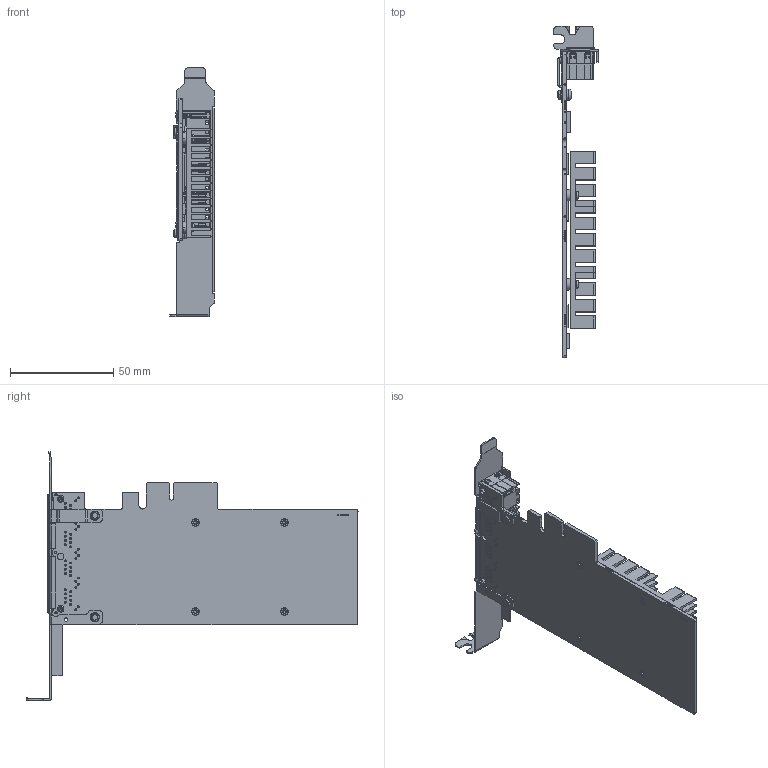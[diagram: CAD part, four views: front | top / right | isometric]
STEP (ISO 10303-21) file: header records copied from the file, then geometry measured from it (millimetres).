
FILE_DESCRIPTION((''),'2;1');
FILE_NAME('MV-20226_LONG','2021-08-18T19:46:18',('gengdawei'),(''),'CREO PARAMETRIC BY PTC INC, 2017260','CREO PARAMETRIC BY PTC INC, 2017260','');
FILE_SCHEMA(('CONFIG_CONTROL_DESIGN'));
Products named in the file (1): MV-20226_LONG
Bounding box: 21.59 x 161.08 x 120.82 mm (x, y, z)
Volume: 44773 mm3; surface area: 66215.2 mm2
Topology: 2 solids, 7 shells, 4550 faces, 12253 edges, 7765 vertices
Faces by surface type: plane 3087, cylinder 1124, torus 112, extrusion 72, bspline 67, cone 44, sphere 44
Entity records: 144340 total; most frequent: CARTESIAN_POINT 30619, ORIENTED_EDGE 24250, DIRECTION 22575, EDGE_CURVE 12125, VECTOR 9007, LINE 8935, VERTEX_POINT 7733, AXIS2_PLACEMENT_3D 6784
